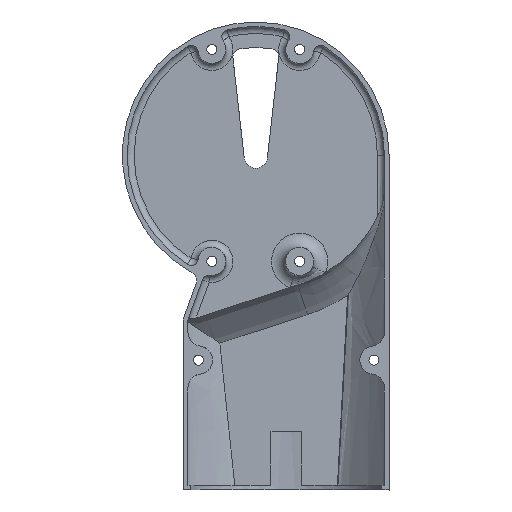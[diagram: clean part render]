
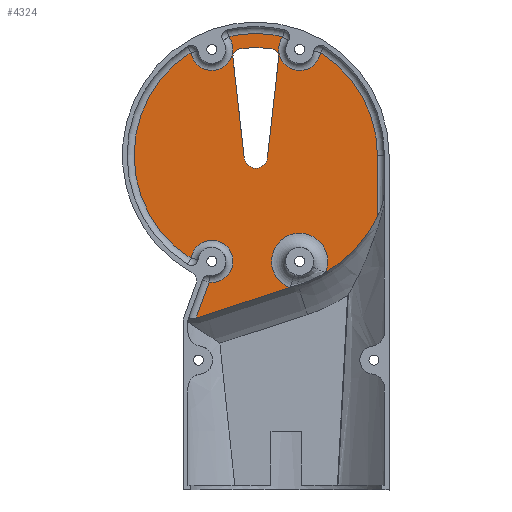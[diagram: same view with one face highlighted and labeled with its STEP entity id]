
A CAD part, front view. The second image highlights one B-rep face of the part: STEP entity #4324.
In plain terms, the highlighted planar face has unit normal (0, -1, 0).
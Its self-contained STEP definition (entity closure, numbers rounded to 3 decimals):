
#1195=DIRECTION('',(-0.951,0.,-0.309));
#1196=VECTOR('',#1195,42.091);
#1197=CARTESIAN_POINT('',(214.533,32.75,289.996));
#1198=LINE('',#1197,#1196);
#1199=DIRECTION('',(0.342,0.,0.94));
#1200=VECTOR('',#1199,16.296);
#1201=CARTESIAN_POINT('',(174.5,32.75,276.993));
#1202=LINE('',#1201,#1200);
#1203=CARTESIAN_POINT('',(181.249,32.75,301.23));
#1204=DIRECTION('',(0.,-1.,0.));
#1205=DIRECTION('',(-0.13,0.,-0.991));
#1206=AXIS2_PLACEMENT_3D('',#1203,#1204,#1205);
#1208=CARTESIAN_POINT('',(181.249,32.75,301.23));
#1209=DIRECTION('',(0.,-1.,0.));
#1210=DIRECTION('',(0.,0.,-1.));
#1211=AXIS2_PLACEMENT_3D('',#1208,#1209,#1210);
#1213=CARTESIAN_POINT('',(181.249,32.75,301.23));
#1214=DIRECTION('',(0.,-1.,0.));
#1215=DIRECTION('',(0.13,0.,0.991));
#1216=AXIS2_PLACEMENT_3D('',#1213,#1214,#1215);
#1218=CARTESIAN_POINT('',(181.249,32.75,301.23));
#1219=DIRECTION('',(0.,-1.,0.));
#1220=DIRECTION('',(0.,0.,1.));
#1221=AXIS2_PLACEMENT_3D('',#1218,#1219,#1220);
#1223=CARTESIAN_POINT('',(200.,32.75,346.5));
#1224=DIRECTION('',(0.,1.,0.));
#1225=DIRECTION('',(-0.532,0.,-0.847));
#1226=AXIS2_PLACEMENT_3D('',#1223,#1224,#1225);
#1228=CARTESIAN_POINT('',(181.249,32.75,391.77));
#1229=DIRECTION('',(0.,-1.,0.));
#1230=DIRECTION('',(-0.99,0.,-0.138));
#1231=AXIS2_PLACEMENT_3D('',#1228,#1229,#1230);
#1233=CARTESIAN_POINT('',(181.249,32.75,391.77));
#1234=DIRECTION('',(0.,-1.,0.));
#1235=DIRECTION('',(0.,0.,-1.));
#1236=AXIS2_PLACEMENT_3D('',#1233,#1234,#1235);
#1238=CARTESIAN_POINT('',(200.,32.75,346.5));
#1239=DIRECTION('',(0.,1.,0.));
#1240=DIRECTION('',(-0.223,0.,0.975));
#1241=AXIS2_PLACEMENT_3D('',#1238,#1239,#1240);
#1243=CARTESIAN_POINT('',(200.,32.75,346.5));
#1244=DIRECTION('',(0.,1.,0.));
#1245=DIRECTION('',(0.,0.,1.));
#1246=AXIS2_PLACEMENT_3D('',#1243,#1244,#1245);
#1248=CARTESIAN_POINT('',(218.751,32.75,391.77));
#1249=DIRECTION('',(0.,-1.,0.));
#1250=DIRECTION('',(-0.798,0.,0.603));
#1251=AXIS2_PLACEMENT_3D('',#1248,#1249,#1250);
#1253=CARTESIAN_POINT('',(218.751,32.75,391.77));
#1254=DIRECTION('',(0.,-1.,0.));
#1255=DIRECTION('',(0.,0.,-1.));
#1256=AXIS2_PLACEMENT_3D('',#1253,#1254,#1255);
#1258=CARTESIAN_POINT('',(200.,32.75,346.5));
#1259=DIRECTION('',(0.,1.,0.));
#1260=DIRECTION('',(0.532,0.,0.847));
#1261=AXIS2_PLACEMENT_3D('',#1258,#1259,#1260);
#1263=CARTESIAN_POINT('',(200.,32.75,346.5));
#1264=DIRECTION('',(0.,1.,0.));
#1265=DIRECTION('',(0.893,0.,-0.451));
#1266=AXIS2_PLACEMENT_3D('',#1263,#1264,#1265);
#1268=CARTESIAN_POINT('',(218.751,32.75,301.23));
#1269=DIRECTION('',(0.,-1.,0.));
#1270=DIRECTION('',(0.915,0.,-0.403));
#1271=AXIS2_PLACEMENT_3D('',#1268,#1269,#1270);
#1273=CARTESIAN_POINT('',(218.751,32.75,301.23));
#1274=DIRECTION('',(0.,-1.,0.));
#1275=DIRECTION('',(0.,0.,1.));
#1276=AXIS2_PLACEMENT_3D('',#1273,#1274,#1275);
#1278=CARTESIAN_POINT('',(200.,32.75,346.));
#1279=DIRECTION('',(0.,-1.,0.));
#1280=DIRECTION('',(-0.994,0.,-0.112));
#1281=AXIS2_PLACEMENT_3D('',#1278,#1279,#1280);
#1283=CARTESIAN_POINT('',(200.,32.75,346.));
#1284=DIRECTION('',(0.,-1.,0.));
#1285=DIRECTION('',(0.,0.,-1.));
#1286=AXIS2_PLACEMENT_3D('',#1283,#1284,#1285);
#1288=DIRECTION('',(0.112,0.,0.994));
#1289=VECTOR('',#1288,42.968);
#1290=CARTESIAN_POINT('',(204.969,32.75,345.442));
#1291=LINE('',#1290,#1289);
#1292=CARTESIAN_POINT('',(206.282,32.75,388.533));
#1293=DIRECTION('',(0.,-1.,0.));
#1294=DIRECTION('',(0.994,0.,-0.112));
#1295=AXIS2_PLACEMENT_3D('',#1292,#1293,#1294);
#1297=CARTESIAN_POINT('',(200.,32.75,346.5));
#1298=DIRECTION('',(0.,-1.,0.));
#1299=DIRECTION('',(0.148,0.,0.989));
#1300=AXIS2_PLACEMENT_3D('',#1297,#1298,#1299);
#1302=CARTESIAN_POINT('',(200.,32.75,346.5));
#1303=DIRECTION('',(0.,-1.,0.));
#1304=DIRECTION('',(0.,0.,1.));
#1305=AXIS2_PLACEMENT_3D('',#1302,#1303,#1304);
#1307=CARTESIAN_POINT('',(193.718,32.75,388.533));
#1308=DIRECTION('',(0.,-1.,0.));
#1309=DIRECTION('',(-0.149,0.,0.989));
#1310=AXIS2_PLACEMENT_3D('',#1307,#1308,#1309);
#1312=DIRECTION('',(0.112,0.,-0.994));
#1313=VECTOR('',#1312,42.968);
#1314=CARTESIAN_POINT('',(190.24,32.75,388.143));
#1315=LINE('',#1314,#1313);
#1316=CARTESIAN_POINT('',(174.5,32.75,276.993));
#1708=DIRECTION('',(0.,0.,1.));
#1709=VECTOR('',#1708,26.275);
#1710=CARTESIAN_POINT('',(252.,32.75,320.225));
#1711=LINE('',#1710,#1709);
#2659=CARTESIAN_POINT('',(195.031,32.75,345.442));
#2660=VERTEX_POINT('',#2659);
#2661=CARTESIAN_POINT('',(190.24,32.75,388.143));
#2662=VERTEX_POINT('',#2661);
#2698=CARTESIAN_POINT('',(209.76,32.75,388.143));
#2699=VERTEX_POINT('',#2698);
#2700=CARTESIAN_POINT('',(204.969,32.75,345.442));
#2701=VERTEX_POINT('',#2700);
#2944=CARTESIAN_POINT('',(214.533,32.75,289.996));
#2946=VERTEX_POINT('',#2944);
#2949=VERTEX_POINT('',#1316);
#2953=CARTESIAN_POINT('',(218.751,32.75,313.23));
#2954=VERTEX_POINT('',#2953);
#2955=CARTESIAN_POINT('',(229.736,32.75,296.399));
#2956=VERTEX_POINT('',#2955);
#2961=CARTESIAN_POINT('',(180.074,32.75,292.307));
#2962=VERTEX_POINT('',#2961);
#2963=CARTESIAN_POINT('',(181.249,32.75,292.23));
#2964=VERTEX_POINT('',#2963);
#2965=CARTESIAN_POINT('',(182.423,32.75,310.153));
#2966=VERTEX_POINT('',#2965);
#2967=CARTESIAN_POINT('',(181.249,32.75,310.23));
#2968=VERTEX_POINT('',#2967);
#2969=CARTESIAN_POINT('',(172.334,32.75,302.47));
#2970=VERTEX_POINT('',#2969);
#2971=CARTESIAN_POINT('',(172.334,32.75,390.53));
#2972=VERTEX_POINT('',#2971);
#2973=CARTESIAN_POINT('',(181.249,32.75,382.77));
#2974=CARTESIAN_POINT('',(188.429,32.75,397.196));
#2975=VERTEX_POINT('',#2973);
#2976=VERTEX_POINT('',#2974);
#2977=CARTESIAN_POINT('',(200.,32.75,398.5));
#2978=VERTEX_POINT('',#2977);
#2979=CARTESIAN_POINT('',(211.571,32.75,397.196));
#2980=VERTEX_POINT('',#2979);
#2981=CARTESIAN_POINT('',(218.751,32.75,382.77));
#2982=CARTESIAN_POINT('',(227.666,32.75,390.53));
#2983=VERTEX_POINT('',#2981);
#2984=VERTEX_POINT('',#2982);
#2985=CARTESIAN_POINT('',(252.,32.75,346.5));
#2986=VERTEX_POINT('',#2985);
#2987=CARTESIAN_POINT('',(252.,32.75,320.225));
#2988=VERTEX_POINT('',#2987);
#2989=CARTESIAN_POINT('',(200.,32.75,341.));
#2990=VERTEX_POINT('',#2989);
#2991=CARTESIAN_POINT('',(206.803,32.75,391.994));
#2992=VERTEX_POINT('',#2991);
#2993=CARTESIAN_POINT('',(200.,32.75,392.5));
#2994=VERTEX_POINT('',#2993);
#2995=CARTESIAN_POINT('',(193.197,32.75,391.994));
#2996=VERTEX_POINT('',#2995);
#4268=CARTESIAN_POINT('',(0.,32.75,346.5));
#4269=DIRECTION('',(0.,-1.,0.));
#4270=DIRECTION('',(1.,0.,0.));
#4271=AXIS2_PLACEMENT_3D('',#4268,#4269,#4270);
#4272=PLANE('',#4271);
#4273=ORIENTED_EDGE('',*,*,#4213,.T.);
#4275=ORIENTED_EDGE('',*,*,#4274,.T.);
#4277=ORIENTED_EDGE('',*,*,#4276,.T.);
#4279=ORIENTED_EDGE('',*,*,#4278,.T.);
#4281=ORIENTED_EDGE('',*,*,#4280,.T.);
#4283=ORIENTED_EDGE('',*,*,#4282,.T.);
#4285=ORIENTED_EDGE('',*,*,#4284,.T.);
#4287=ORIENTED_EDGE('',*,*,#4286,.T.);
#4289=ORIENTED_EDGE('',*,*,#4288,.T.);
#4291=ORIENTED_EDGE('',*,*,#4290,.T.);
#4293=ORIENTED_EDGE('',*,*,#4292,.T.);
#4295=ORIENTED_EDGE('',*,*,#4294,.T.);
#4297=ORIENTED_EDGE('',*,*,#4296,.T.);
#4299=ORIENTED_EDGE('',*,*,#4298,.T.);
#4301=ORIENTED_EDGE('',*,*,#4300,.F.);
#4303=ORIENTED_EDGE('',*,*,#4302,.T.);
#4304=ORIENTED_EDGE('',*,*,#4257,.T.);
#4305=ORIENTED_EDGE('',*,*,#4255,.T.);
#4306=EDGE_LOOP('',(#4273,#4275,#4277,#4279,#4281,#4283,#4285,#4287,#4289,#4291,
#4293,#4295,#4297,#4299,#4301,#4303,#4304,#4305));
#4307=FACE_OUTER_BOUND('',#4306,.F.);
#4309=ORIENTED_EDGE('',*,*,#4308,.T.);
#4311=ORIENTED_EDGE('',*,*,#4310,.T.);
#4312=ORIENTED_EDGE('',*,*,#3300,.T.);
#4314=ORIENTED_EDGE('',*,*,#4313,.T.);
#4316=ORIENTED_EDGE('',*,*,#4315,.T.);
#4318=ORIENTED_EDGE('',*,*,#4317,.T.);
#4320=ORIENTED_EDGE('',*,*,#4319,.T.);
#4321=ORIENTED_EDGE('',*,*,#3206,.T.);
#4322=EDGE_LOOP('',(#4309,#4311,#4312,#4314,#4316,#4318,#4320,#4321));
#4323=FACE_BOUND('',#4322,.F.);
#4324=ADVANCED_FACE('',(#4307,#4323),#4272,.T.);
#1207=CIRCLE('',#1206,9.);
#1212=CIRCLE('',#1211,9.);
#1217=CIRCLE('',#1216,9.);
#1222=CIRCLE('',#1221,9.);
#1227=CIRCLE('',#1226,52.);
#1232=CIRCLE('',#1231,9.);
#1237=CIRCLE('',#1236,9.);
#1242=CIRCLE('',#1241,52.);
#1247=CIRCLE('',#1246,52.);
#1252=CIRCLE('',#1251,9.);
#1257=CIRCLE('',#1256,9.);
#1262=CIRCLE('',#1261,52.);
#1267=CIRCLE('',#1266,58.261);
#1272=CIRCLE('',#1271,12.);
#1277=CIRCLE('',#1276,12.);
#1282=CIRCLE('',#1281,5.);
#1287=CIRCLE('',#1286,5.);
#1296=CIRCLE('',#1295,3.5);
#1301=CIRCLE('',#1300,46.);
#1306=CIRCLE('',#1305,46.);
#1311=CIRCLE('',#1310,3.5);
#3206=EDGE_CURVE('',#2662,#2660,#1315,.T.);
#3300=EDGE_CURVE('',#2701,#2699,#1291,.T.);
#4213=EDGE_CURVE('',#2946,#2949,#1198,.T.);
#4255=EDGE_CURVE('',#2954,#2946,#1277,.T.);
#4257=EDGE_CURVE('',#2956,#2954,#1272,.T.);
#4274=EDGE_CURVE('',#2949,#2962,#1202,.T.);
#4276=EDGE_CURVE('',#2962,#2964,#1207,.T.);
#4278=EDGE_CURVE('',#2964,#2966,#1212,.T.);
#4280=EDGE_CURVE('',#2966,#2968,#1217,.T.);
#4282=EDGE_CURVE('',#2968,#2970,#1222,.T.);
#4284=EDGE_CURVE('',#2970,#2972,#1227,.T.);
#4286=EDGE_CURVE('',#2972,#2975,#1232,.T.);
#4288=EDGE_CURVE('',#2975,#2976,#1237,.T.);
#4290=EDGE_CURVE('',#2976,#2978,#1242,.T.);
#4292=EDGE_CURVE('',#2978,#2980,#1247,.T.);
#4294=EDGE_CURVE('',#2980,#2983,#1252,.T.);
#4296=EDGE_CURVE('',#2983,#2984,#1257,.T.);
#4298=EDGE_CURVE('',#2984,#2986,#1262,.T.);
#4300=EDGE_CURVE('',#2988,#2986,#1711,.T.);
#4302=EDGE_CURVE('',#2988,#2956,#1267,.T.);
#4308=EDGE_CURVE('',#2660,#2990,#1282,.T.);
#4310=EDGE_CURVE('',#2990,#2701,#1287,.T.);
#4313=EDGE_CURVE('',#2699,#2992,#1296,.T.);
#4315=EDGE_CURVE('',#2992,#2994,#1301,.T.);
#4317=EDGE_CURVE('',#2994,#2996,#1306,.T.);
#4319=EDGE_CURVE('',#2996,#2662,#1311,.T.);
